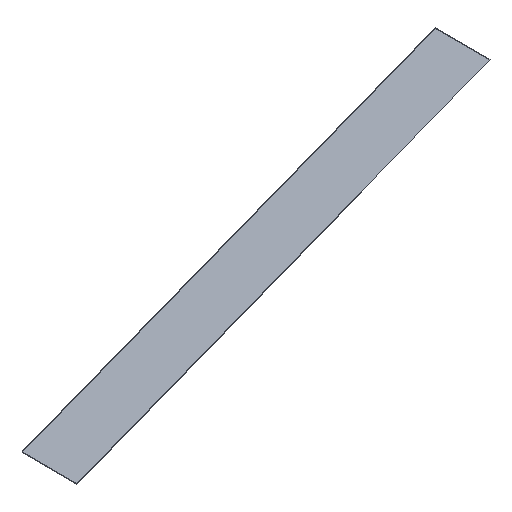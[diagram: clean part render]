
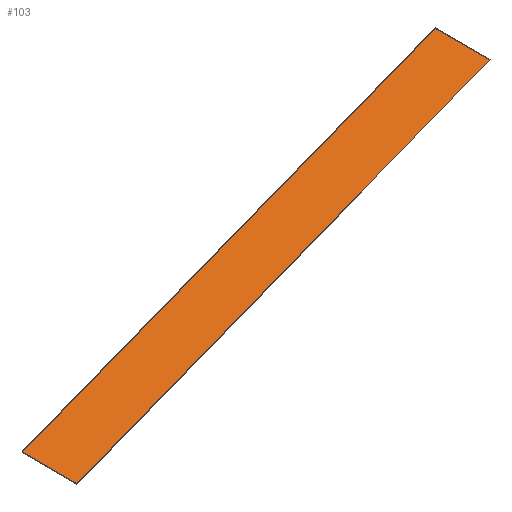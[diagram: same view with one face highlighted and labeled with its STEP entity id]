
A CAD part, isometric view. The second image highlights one B-rep face of the part: STEP entity #103.
In plain terms, the highlighted planar face has unit normal (0, 0, 1).
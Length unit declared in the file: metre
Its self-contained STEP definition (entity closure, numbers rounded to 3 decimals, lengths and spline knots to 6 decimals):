
#32=ORIENTED_EDGE('',*,*,#46,.T.);
#33=ORIENTED_EDGE('',*,*,#36,.T.);
#34=ORIENTED_EDGE('',*,*,#40,.T.);
#35=ORIENTED_EDGE('',*,*,#43,.T.);
#36=EDGE_CURVE('',#48,#49,#56,.T.);
#40=EDGE_CURVE('',#49,#52,#60,.F.);
#43=EDGE_CURVE('',#52,#54,#63,.T.);
#46=EDGE_CURVE('',#54,#48,#66,.T.);
#48=VERTEX_POINT('',#144);
#49=VERTEX_POINT('',#145);
#52=VERTEX_POINT('',#153);
#54=VERTEX_POINT('',#159);
#56=LINE('',#143,#68);
#60=LINE('',#152,#72);
#63=LINE('',#158,#75);
#66=LINE('',#164,#78);
#68=VECTOR('',#119,1.);
#72=VECTOR('',#125,1.);
#75=VECTOR('',#130,1.);
#78=VECTOR('',#135,1.);
#85=EDGE_LOOP('',(#32,#33,#34,#35));
#91=FACE_BOUND('',#85,.T.);
#97=PLANE('',#114);
#103=ADVANCED_FACE('',(#91),#97,.F.);
#114=AXIS2_PLACEMENT_3D('',#167,#139,#140);
#119=DIRECTION('',(0.963,0.27,0.));
#125=DIRECTION('',(0.,-1.,0.));
#130=DIRECTION('',(-0.963,-0.269,0.));
#135=DIRECTION('',(0.,-1.,0.));
#139=DIRECTION('',(0.,0.,-1.));
#140=DIRECTION('',(0.,-1.,0.));
#143=CARTESIAN_POINT('',(-0.03643,0.000539,-0.03));
#144=CARTESIAN_POINT('',(-0.03643,0.000539,-0.03));
#145=CARTESIAN_POINT('',(-0.035395,0.000829,-0.03));
#152=CARTESIAN_POINT('',(-0.035395,0.,-0.03));
#153=CARTESIAN_POINT('',(-0.035395,0.000927,-0.03));
#158=CARTESIAN_POINT('',(-0.035395,0.000927,-0.03));
#159=CARTESIAN_POINT('',(-0.03643,0.000638,-0.03));
#164=CARTESIAN_POINT('',(-0.03643,0.,-0.03));
#167=CARTESIAN_POINT('',(-0.035913,0.,-0.03));
